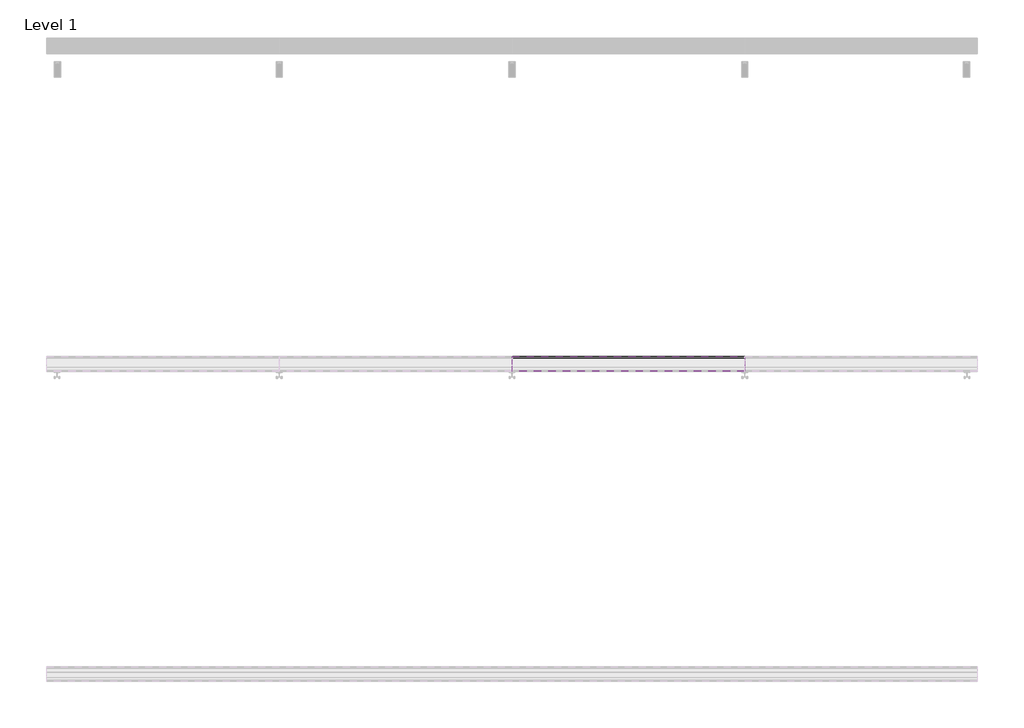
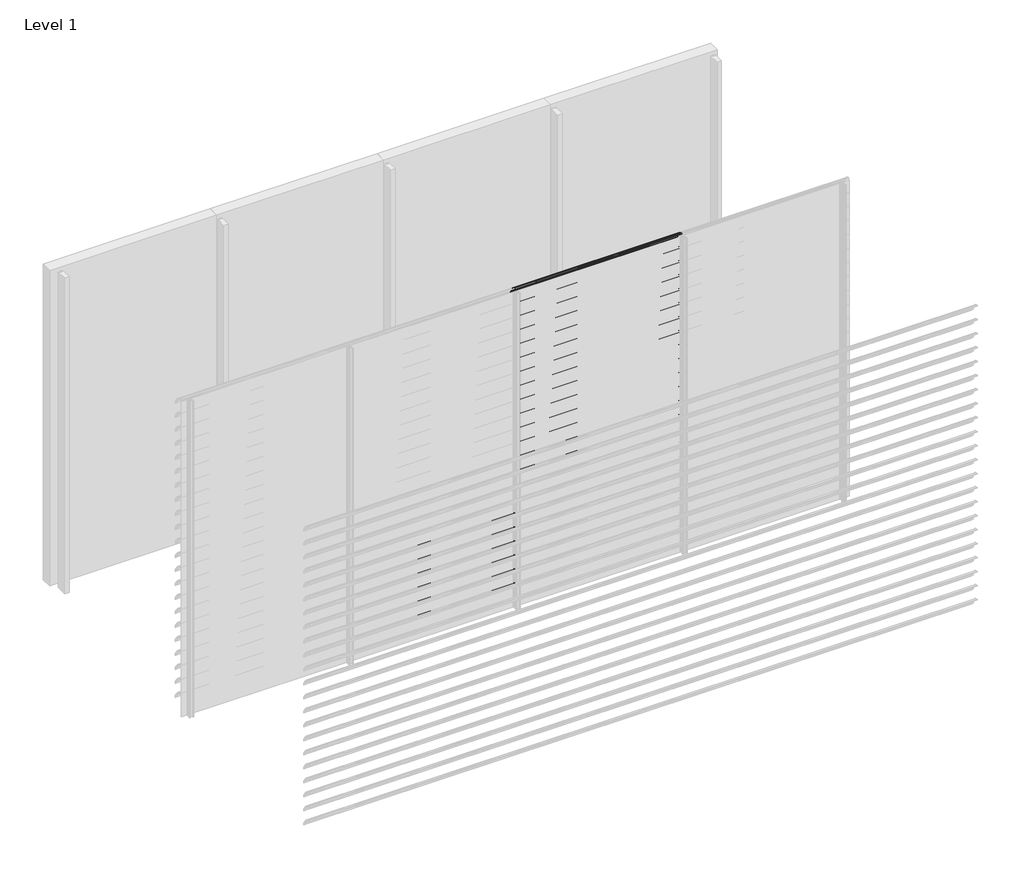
# One storey, part 17 of 57: 20 proxies.
"""IFC4 building model written with IfcOpenShell, lengths in millimetres."""

from ifc_helpers import new_model, si_unit, point, frame, frame_2d, origin, place, context, project, spatial, polyline, circle_curve, trimmed, segment, composite_curve, outline, extrude, element, save

model = new_model("IFC4")

# Units and contexts
model_context = context("Model", 3, world=origin())
ifc_project = project(units=[si_unit("LENGTHUNIT", "METRE", prefix="MILLI")], contexts=[model_context])

# Site, building, storey
site = spatial("IfcSite", under=ifc_project)
building = spatial("IfcBuilding", under=site)
storey = spatial("IfcBuildingStorey", under=building, Name="Level 1", Elevation=0.0)

# Proxies
placement = place(None, origin())
element("IfcBuildingElementProxy", 1, Name="Wall Sweeps", at=placement, inside=storey, context=model_context, shape_type="SweptSolid", body=[
    extrude(outline(composite_curve([segment(trimmed(circle_curve(frame_2d((-41993.7822526, 888.4913792)), 4.2177474), [point((-41989.6985606, 889.5462976))], [point((-41993.7822526, 892.7091266))], False, "CARTESIAN"), True, "CONTINUOUS"), segment(trimmed(circle_curve(frame_2d((-42018.7150834, 790.2536312)), 105.4456002), [point((-41993.7822526, 892.7091266))], [point((-41971.7914298, 884.6832099))], False, "CARTESIAN"), True, "CONTINUOUS"), segment(trimmed(circle_curve(frame_2d((-42061.7199745, 736.0352476)), 173.7335887), [point((-41971.7914298, 884.6832099))], [point((-41913.0720121, 825.9637922))], False, "CARTESIAN"), True, "CONTINUOUS"), segment(trimmed(circle_curve(frame_2d((-42004.9297178, 774.1860314)), 105.4456002), [point((-41913.0720121, 825.9637922))], [point((-41903.6249616, 803.4455765))], False, "CARTESIAN"), True, "CONTINUOUS"), segment(trimmed(circle_curve(frame_2d((-41907.809737, 802.3307305)), 4.3307305), [point((-41903.6249616, 803.4455765))], [point((-41909.0769196, 798.189538))], False, "CARTESIAN"), True, "CONTINUOUS"), segment(polyline([(-41909.0769196, 798.189538), (-41934.7401984, 822.9722783)]), True, "CONTINUOUS"), segment(trimmed(circle_curve(frame_2d((-41931.3879574, 825.2977626)), 4.079877), [point((-41934.7401984, 822.9722783))], [point((-41930.7310597, 829.3244091))], False, "CARTESIAN"), True, "CONTINUOUS"), segment(trimmed(circle_curve(frame_2d((-42014.6665585, 807.2544323)), 86.7885467), [point((-41930.7310597, 829.3244091))], [point((-41942.3028351, 855.1683485))], True, "CARTESIAN"), True, "CONTINUOUS"), segment(polyline([(-41942.3028351, 855.1683485), (-41940.7230099, 857.9046861)]), True, "CONTINUOUS"), segment(trimmed(circle_curve(frame_2d((-42061.7199745, 736.0352476)), 171.7335887), [point((-41940.7230099, 857.9046861))], [point((-41972.7555872, 882.9289618))], True, "CARTESIAN"), True, "CONTINUOUS"), segment(trimmed(circle_curve(frame_2d((-42018.7150834, 790.2536312)), 103.4456002), [point((-41972.7555872, 882.9289618))], [point((-41989.6985606, 889.5462976))], True, "CARTESIAN"), True, "CONTINUOUS")], self_intersect=False)), frame((1500.0, 0.0, 0.0), z_axis=(1.0, 0.0, 0.0), x_axis=(0.0, 1.0, 0.0)), (0.0, 0.0, 1.0), 1500.0),
])
element("IfcBuildingElementProxy", 2, Name="Wall Sweeps", at=placement, inside=storey, context=model_context, shape_type="SweptSolid", body=[
    extrude(outline(composite_curve([segment(trimmed(circle_curve(frame_2d((-41993.7822526, 755.4913792)), 4.2177474), [point((-41989.6985606, 756.5462976))], [point((-41993.7822526, 759.7091266))], False, "CARTESIAN"), True, "CONTINUOUS"), segment(trimmed(circle_curve(frame_2d((-42018.7150834, 657.2536312)), 105.4456002), [point((-41993.7822526, 759.7091266))], [point((-41971.7914298, 751.6832099))], False, "CARTESIAN"), True, "CONTINUOUS"), segment(trimmed(circle_curve(frame_2d((-42061.7199745, 603.0352476)), 173.7335887), [point((-41971.7914298, 751.6832099))], [point((-41913.0720121, 692.9637922))], False, "CARTESIAN"), True, "CONTINUOUS"), segment(trimmed(circle_curve(frame_2d((-42004.9297178, 641.1860314)), 105.4456002), [point((-41913.0720121, 692.9637922))], [point((-41903.6249616, 670.4455765))], False, "CARTESIAN"), True, "CONTINUOUS"), segment(trimmed(circle_curve(frame_2d((-41907.809737, 669.3307305)), 4.3307305), [point((-41903.6249616, 670.4455765))], [point((-41909.0769196, 665.189538))], False, "CARTESIAN"), True, "CONTINUOUS"), segment(polyline([(-41909.0769196, 665.189538), (-41934.7401984, 689.9722783)]), True, "CONTINUOUS"), segment(trimmed(circle_curve(frame_2d((-41931.3879574, 692.2977626)), 4.079877), [point((-41934.7401984, 689.9722783))], [point((-41930.7310597, 696.3244091))], False, "CARTESIAN"), True, "CONTINUOUS"), segment(trimmed(circle_curve(frame_2d((-42014.6665585, 674.2544323)), 86.7885467), [point((-41930.7310597, 696.3244091))], [point((-41942.3028351, 722.1683485))], True, "CARTESIAN"), True, "CONTINUOUS"), segment(polyline([(-41942.3028351, 722.1683485), (-41940.7230099, 724.9046861)]), True, "CONTINUOUS"), segment(trimmed(circle_curve(frame_2d((-42061.7199745, 603.0352476)), 171.7335887), [point((-41940.7230099, 724.9046861))], [point((-41972.7555872, 749.9289618))], True, "CARTESIAN"), True, "CONTINUOUS"), segment(trimmed(circle_curve(frame_2d((-42018.7150834, 657.2536312)), 103.4456002), [point((-41972.7555872, 749.9289618))], [point((-41989.6985606, 756.5462976))], True, "CARTESIAN"), True, "CONTINUOUS")], self_intersect=False)), frame((1500.0, 0.0, 0.0), z_axis=(1.0, 0.0, 0.0), x_axis=(0.0, 1.0, 0.0)), (0.0, 0.0, 1.0), 1500.0),
])
element("IfcBuildingElementProxy", 3, Name="Wall Sweeps", at=placement, inside=storey, context=model_context, shape_type="SweptSolid", body=[
    extrude(outline(composite_curve([segment(trimmed(circle_curve(frame_2d((-41993.7822526, 622.4913792)), 4.2177474), [point((-41989.6985606, 623.5462976))], [point((-41993.7822526, 626.7091266))], False, "CARTESIAN"), True, "CONTINUOUS"), segment(trimmed(circle_curve(frame_2d((-42018.7150834, 524.2536312)), 105.4456002), [point((-41993.7822526, 626.7091266))], [point((-41971.7914298, 618.6832099))], False, "CARTESIAN"), True, "CONTINUOUS"), segment(trimmed(circle_curve(frame_2d((-42061.7199745, 470.0352476)), 173.7335887), [point((-41971.7914298, 618.6832099))], [point((-41913.0720121, 559.9637922))], False, "CARTESIAN"), True, "CONTINUOUS"), segment(trimmed(circle_curve(frame_2d((-42004.9297178, 508.1860314)), 105.4456002), [point((-41913.0720121, 559.9637922))], [point((-41903.6249616, 537.4455765))], False, "CARTESIAN"), True, "CONTINUOUS"), segment(trimmed(circle_curve(frame_2d((-41907.809737, 536.3307305)), 4.3307305), [point((-41903.6249616, 537.4455765))], [point((-41909.0769196, 532.189538))], False, "CARTESIAN"), True, "CONTINUOUS"), segment(polyline([(-41909.0769196, 532.189538), (-41934.7401984, 556.9722783)]), True, "CONTINUOUS"), segment(trimmed(circle_curve(frame_2d((-41931.3879574, 559.2977626)), 4.079877), [point((-41934.7401984, 556.9722783))], [point((-41930.7310597, 563.3244091))], False, "CARTESIAN"), True, "CONTINUOUS"), segment(trimmed(circle_curve(frame_2d((-42014.6665585, 541.2544323)), 86.7885467), [point((-41930.7310597, 563.3244091))], [point((-41942.3028351, 589.1683485))], True, "CARTESIAN"), True, "CONTINUOUS"), segment(polyline([(-41942.3028351, 589.1683485), (-41940.7230099, 591.9046861)]), True, "CONTINUOUS"), segment(trimmed(circle_curve(frame_2d((-42061.7199745, 470.0352476)), 171.7335887), [point((-41940.7230099, 591.9046861))], [point((-41972.7555872, 616.9289618))], True, "CARTESIAN"), True, "CONTINUOUS"), segment(trimmed(circle_curve(frame_2d((-42018.7150834, 524.2536312)), 103.4456002), [point((-41972.7555872, 616.9289618))], [point((-41989.6985606, 623.5462976))], True, "CARTESIAN"), True, "CONTINUOUS")], self_intersect=False)), frame((1500.0, 0.0, 0.0), z_axis=(1.0, 0.0, 0.0), x_axis=(0.0, 1.0, 0.0)), (0.0, 0.0, 1.0), 1500.0),
])
element("IfcBuildingElementProxy", 4, Name="Wall Sweeps", at=placement, inside=storey, context=model_context, shape_type="SweptSolid", body=[
    extrude(outline(composite_curve([segment(trimmed(circle_curve(frame_2d((-41993.7822526, 489.4913792)), 4.2177474), [point((-41989.6985606, 490.5462976))], [point((-41993.7822526, 493.7091266))], False, "CARTESIAN"), True, "CONTINUOUS"), segment(trimmed(circle_curve(frame_2d((-42018.7150834, 391.2536312)), 105.4456002), [point((-41993.7822526, 493.7091266))], [point((-41971.7914298, 485.6832099))], False, "CARTESIAN"), True, "CONTINUOUS"), segment(trimmed(circle_curve(frame_2d((-42061.7199745, 337.0352476)), 173.7335887), [point((-41971.7914298, 485.6832099))], [point((-41913.0720121, 426.9637922))], False, "CARTESIAN"), True, "CONTINUOUS"), segment(trimmed(circle_curve(frame_2d((-42004.9297178, 375.1860314)), 105.4456002), [point((-41913.0720121, 426.9637922))], [point((-41903.6249616, 404.4455765))], False, "CARTESIAN"), True, "CONTINUOUS"), segment(trimmed(circle_curve(frame_2d((-41907.809737, 403.3307305)), 4.3307305), [point((-41903.6249616, 404.4455765))], [point((-41909.0769196, 399.189538))], False, "CARTESIAN"), True, "CONTINUOUS"), segment(polyline([(-41909.0769196, 399.189538), (-41934.7401984, 423.9722783)]), True, "CONTINUOUS"), segment(trimmed(circle_curve(frame_2d((-41931.3879574, 426.2977626)), 4.079877), [point((-41934.7401984, 423.9722783))], [point((-41930.7310597, 430.3244091))], False, "CARTESIAN"), True, "CONTINUOUS"), segment(trimmed(circle_curve(frame_2d((-42014.6665585, 408.2544323)), 86.7885467), [point((-41930.7310597, 430.3244091))], [point((-41942.3028351, 456.1683485))], True, "CARTESIAN"), True, "CONTINUOUS"), segment(polyline([(-41942.3028351, 456.1683485), (-41940.7230099, 458.9046861)]), True, "CONTINUOUS"), segment(trimmed(circle_curve(frame_2d((-42061.7199745, 337.0352476)), 171.7335887), [point((-41940.7230099, 458.9046861))], [point((-41972.7555872, 483.9289618))], True, "CARTESIAN"), True, "CONTINUOUS"), segment(trimmed(circle_curve(frame_2d((-42018.7150834, 391.2536312)), 103.4456002), [point((-41972.7555872, 483.9289618))], [point((-41989.6985606, 490.5462976))], True, "CARTESIAN"), True, "CONTINUOUS")], self_intersect=False)), frame((1500.0, 0.0, 0.0), z_axis=(1.0, 0.0, 0.0), x_axis=(0.0, 1.0, 0.0)), (0.0, 0.0, 1.0), 1500.0),
])
element("IfcBuildingElementProxy", 5, Name="Wall Sweeps", at=placement, inside=storey, context=model_context, shape_type="SweptSolid", body=[
    extrude(outline(composite_curve([segment(trimmed(circle_curve(frame_2d((-41993.7822526, 356.4913792)), 4.2177474), [point((-41989.6985606, 357.5462976))], [point((-41993.7822526, 360.7091266))], False, "CARTESIAN"), True, "CONTINUOUS"), segment(trimmed(circle_curve(frame_2d((-42018.7150834, 258.2536312)), 105.4456002), [point((-41993.7822526, 360.7091266))], [point((-41971.7914298, 352.6832099))], False, "CARTESIAN"), True, "CONTINUOUS"), segment(trimmed(circle_curve(frame_2d((-42061.7199745, 204.0352476)), 173.7335887), [point((-41971.7914298, 352.6832099))], [point((-41913.0720121, 293.9637922))], False, "CARTESIAN"), True, "CONTINUOUS"), segment(trimmed(circle_curve(frame_2d((-42004.9297178, 242.1860314)), 105.4456002), [point((-41913.0720121, 293.9637922))], [point((-41903.6249616, 271.4455765))], False, "CARTESIAN"), True, "CONTINUOUS"), segment(trimmed(circle_curve(frame_2d((-41907.809737, 270.3307305)), 4.3307305), [point((-41903.6249616, 271.4455765))], [point((-41909.0769196, 266.189538))], False, "CARTESIAN"), True, "CONTINUOUS"), segment(polyline([(-41909.0769196, 266.189538), (-41934.7401984, 290.9722783)]), True, "CONTINUOUS"), segment(trimmed(circle_curve(frame_2d((-41931.3879574, 293.2977626)), 4.079877), [point((-41934.7401984, 290.9722783))], [point((-41930.7310597, 297.3244091))], False, "CARTESIAN"), True, "CONTINUOUS"), segment(trimmed(circle_curve(frame_2d((-42014.6665585, 275.2544323)), 86.7885467), [point((-41930.7310597, 297.3244091))], [point((-41942.3028351, 323.1683485))], True, "CARTESIAN"), True, "CONTINUOUS"), segment(polyline([(-41942.3028351, 323.1683485), (-41940.7230099, 325.9046861)]), True, "CONTINUOUS"), segment(trimmed(circle_curve(frame_2d((-42061.7199745, 204.0352476)), 171.7335887), [point((-41940.7230099, 325.9046861))], [point((-41972.7555872, 350.9289618))], True, "CARTESIAN"), True, "CONTINUOUS"), segment(trimmed(circle_curve(frame_2d((-42018.7150834, 258.2536312)), 103.4456002), [point((-41972.7555872, 350.9289618))], [point((-41989.6985606, 357.5462976))], True, "CARTESIAN"), True, "CONTINUOUS")], self_intersect=False)), frame((1500.0, 0.0, 0.0), z_axis=(1.0, 0.0, 0.0), x_axis=(0.0, 1.0, 0.0)), (0.0, 0.0, 1.0), 1500.0),
])
element("IfcBuildingElementProxy", 6, Name="Wall Sweeps", at=placement, inside=storey, context=model_context, shape_type="SweptSolid", body=[
    extrude(outline(composite_curve([segment(trimmed(circle_curve(frame_2d((-41993.7822526, 223.4913792)), 4.2177474), [point((-41989.6985606, 224.5462976))], [point((-41993.7822526, 227.7091266))], False, "CARTESIAN"), True, "CONTINUOUS"), segment(trimmed(circle_curve(frame_2d((-42018.7150834, 125.2536312)), 105.4456002), [point((-41993.7822526, 227.7091266))], [point((-41971.7914298, 219.6832099))], False, "CARTESIAN"), True, "CONTINUOUS"), segment(trimmed(circle_curve(frame_2d((-42061.7199745, 71.0352476)), 173.7335887), [point((-41971.7914298, 219.6832099))], [point((-41913.0720121, 160.9637922))], False, "CARTESIAN"), True, "CONTINUOUS"), segment(trimmed(circle_curve(frame_2d((-42004.9297178, 109.1860314)), 105.4456002), [point((-41913.0720121, 160.9637922))], [point((-41903.6249616, 138.4455765))], False, "CARTESIAN"), True, "CONTINUOUS"), segment(trimmed(circle_curve(frame_2d((-41907.809737, 137.3307305)), 4.3307305), [point((-41903.6249616, 138.4455765))], [point((-41909.0769196, 133.189538))], False, "CARTESIAN"), True, "CONTINUOUS"), segment(polyline([(-41909.0769196, 133.189538), (-41934.7401984, 157.9722783)]), True, "CONTINUOUS"), segment(trimmed(circle_curve(frame_2d((-41931.3879574, 160.2977626)), 4.079877), [point((-41934.7401984, 157.9722783))], [point((-41930.7310597, 164.3244091))], False, "CARTESIAN"), True, "CONTINUOUS"), segment(trimmed(circle_curve(frame_2d((-42014.6665585, 142.2544323)), 86.7885467), [point((-41930.7310597, 164.3244091))], [point((-41942.3028351, 190.1683485))], True, "CARTESIAN"), True, "CONTINUOUS"), segment(polyline([(-41942.3028351, 190.1683485), (-41940.7230099, 192.9046861)]), True, "CONTINUOUS"), segment(trimmed(circle_curve(frame_2d((-42061.7199745, 71.0352476)), 171.7335887), [point((-41940.7230099, 192.9046861))], [point((-41972.7555872, 217.9289618))], True, "CARTESIAN"), True, "CONTINUOUS"), segment(trimmed(circle_curve(frame_2d((-42018.7150834, 125.2536312)), 103.4456002), [point((-41972.7555872, 217.9289618))], [point((-41989.6985606, 224.5462976))], True, "CARTESIAN"), True, "CONTINUOUS")], self_intersect=False)), frame((1500.0, 0.0, 0.0), z_axis=(1.0, 0.0, 0.0), x_axis=(0.0, 1.0, 0.0)), (0.0, 0.0, 1.0), 1500.0),
])
element("IfcBuildingElementProxy", 7, Name="Wall Sweeps", at=placement, inside=storey, context=model_context, shape_type="SweptSolid", body=[
    extrude(outline(composite_curve([segment(trimmed(circle_curve(frame_2d((-41993.7822526, 3016.4913792)), 4.2177474), [point((-41989.6985606, 3017.5462976))], [point((-41993.7822526, 3020.7091266))], False, "CARTESIAN"), True, "CONTINUOUS"), segment(trimmed(circle_curve(frame_2d((-42018.7150834, 2918.2536312)), 105.4456002), [point((-41993.7822526, 3020.7091266))], [point((-41971.7914298, 3012.6832099))], False, "CARTESIAN"), True, "CONTINUOUS"), segment(trimmed(circle_curve(frame_2d((-42061.7199745, 2864.0352476)), 173.7335887), [point((-41971.7914298, 3012.6832099))], [point((-41913.0720121, 2953.9637922))], False, "CARTESIAN"), True, "CONTINUOUS"), segment(trimmed(circle_curve(frame_2d((-42004.9297178, 2902.1860314)), 105.4456002), [point((-41913.0720121, 2953.9637922))], [point((-41903.6249616, 2931.4455765))], False, "CARTESIAN"), True, "CONTINUOUS"), segment(trimmed(circle_curve(frame_2d((-41907.809737, 2930.3307305)), 4.3307305), [point((-41903.6249616, 2931.4455765))], [point((-41909.0769196, 2926.189538))], False, "CARTESIAN"), True, "CONTINUOUS"), segment(polyline([(-41909.0769196, 2926.189538), (-41934.7401984, 2950.9722783)]), True, "CONTINUOUS"), segment(trimmed(circle_curve(frame_2d((-41931.3879574, 2953.2977626)), 4.079877), [point((-41934.7401984, 2950.9722783))], [point((-41930.7310597, 2957.3244091))], False, "CARTESIAN"), True, "CONTINUOUS"), segment(trimmed(circle_curve(frame_2d((-42014.6665585, 2935.2544323)), 86.7885467), [point((-41930.7310597, 2957.3244091))], [point((-41942.3028351, 2983.1683485))], True, "CARTESIAN"), True, "CONTINUOUS"), segment(polyline([(-41942.3028351, 2983.1683485), (-41940.7230099, 2985.9046861)]), True, "CONTINUOUS"), segment(trimmed(circle_curve(frame_2d((-42061.7199745, 2864.0352476)), 171.7335887), [point((-41940.7230099, 2985.9046861))], [point((-41972.7555872, 3010.9289618))], True, "CARTESIAN"), True, "CONTINUOUS"), segment(trimmed(circle_curve(frame_2d((-42018.7150834, 2918.2536312)), 103.4456002), [point((-41972.7555872, 3010.9289618))], [point((-41989.6985606, 3017.5462976))], True, "CARTESIAN"), True, "CONTINUOUS")], self_intersect=False)), frame((3000.0, 0.0, 0.0), z_axis=(1.0, 0.0, 0.0), x_axis=(0.0, 1.0, 0.0)), (0.0, 0.0, 1.0), 1500.0),
])
element("IfcBuildingElementProxy", 8, Name="Wall Sweeps", at=placement, inside=storey, context=model_context, shape_type="SweptSolid", body=[
    extrude(outline(composite_curve([segment(trimmed(circle_curve(frame_2d((-41993.7822526, 2883.4913792)), 4.2177474), [point((-41989.6985606, 2884.5462976))], [point((-41993.7822526, 2887.7091266))], False, "CARTESIAN"), True, "CONTINUOUS"), segment(trimmed(circle_curve(frame_2d((-42018.7150834, 2785.2536312)), 105.4456002), [point((-41993.7822526, 2887.7091266))], [point((-41971.7914298, 2879.6832099))], False, "CARTESIAN"), True, "CONTINUOUS"), segment(trimmed(circle_curve(frame_2d((-42061.7199745, 2731.0352476)), 173.7335887), [point((-41971.7914298, 2879.6832099))], [point((-41913.0720121, 2820.9637922))], False, "CARTESIAN"), True, "CONTINUOUS"), segment(trimmed(circle_curve(frame_2d((-42004.9297178, 2769.1860314)), 105.4456002), [point((-41913.0720121, 2820.9637922))], [point((-41903.6249616, 2798.4455765))], False, "CARTESIAN"), True, "CONTINUOUS"), segment(trimmed(circle_curve(frame_2d((-41907.809737, 2797.3307305)), 4.3307305), [point((-41903.6249616, 2798.4455765))], [point((-41909.0769196, 2793.189538))], False, "CARTESIAN"), True, "CONTINUOUS"), segment(polyline([(-41909.0769196, 2793.189538), (-41934.7401984, 2817.9722783)]), True, "CONTINUOUS"), segment(trimmed(circle_curve(frame_2d((-41931.3879574, 2820.2977626)), 4.079877), [point((-41934.7401984, 2817.9722783))], [point((-41930.7310597, 2824.3244091))], False, "CARTESIAN"), True, "CONTINUOUS"), segment(trimmed(circle_curve(frame_2d((-42014.6665585, 2802.2544323)), 86.7885467), [point((-41930.7310597, 2824.3244091))], [point((-41942.3028351, 2850.1683485))], True, "CARTESIAN"), True, "CONTINUOUS"), segment(polyline([(-41942.3028351, 2850.1683485), (-41940.7230099, 2852.9046861)]), True, "CONTINUOUS"), segment(trimmed(circle_curve(frame_2d((-42061.7199745, 2731.0352476)), 171.7335887), [point((-41940.7230099, 2852.9046861))], [point((-41972.7555872, 2877.9289618))], True, "CARTESIAN"), True, "CONTINUOUS"), segment(trimmed(circle_curve(frame_2d((-42018.7150834, 2785.2536312)), 103.4456002), [point((-41972.7555872, 2877.9289618))], [point((-41989.6985606, 2884.5462976))], True, "CARTESIAN"), True, "CONTINUOUS")], self_intersect=False)), frame((3000.0, 0.0, 0.0), z_axis=(1.0, 0.0, 0.0), x_axis=(0.0, 1.0, 0.0)), (0.0, 0.0, 1.0), 1500.0),
])
element("IfcBuildingElementProxy", 9, Name="Wall Sweeps", at=placement, inside=storey, context=model_context, shape_type="SweptSolid", body=[
    extrude(outline(composite_curve([segment(trimmed(circle_curve(frame_2d((-41993.7822526, 2750.4913792)), 4.2177474), [point((-41989.6985606, 2751.5462976))], [point((-41993.7822526, 2754.7091266))], False, "CARTESIAN"), True, "CONTINUOUS"), segment(trimmed(circle_curve(frame_2d((-42018.7150834, 2652.2536312)), 105.4456002), [point((-41993.7822526, 2754.7091266))], [point((-41971.7914298, 2746.6832099))], False, "CARTESIAN"), True, "CONTINUOUS"), segment(trimmed(circle_curve(frame_2d((-42061.7199745, 2598.0352476)), 173.7335887), [point((-41971.7914298, 2746.6832099))], [point((-41913.0720121, 2687.9637922))], False, "CARTESIAN"), True, "CONTINUOUS"), segment(trimmed(circle_curve(frame_2d((-42004.9297178, 2636.1860314)), 105.4456002), [point((-41913.0720121, 2687.9637922))], [point((-41903.6249616, 2665.4455765))], False, "CARTESIAN"), True, "CONTINUOUS"), segment(trimmed(circle_curve(frame_2d((-41907.809737, 2664.3307305)), 4.3307305), [point((-41903.6249616, 2665.4455765))], [point((-41909.0769196, 2660.189538))], False, "CARTESIAN"), True, "CONTINUOUS"), segment(polyline([(-41909.0769196, 2660.189538), (-41934.7401984, 2684.9722783)]), True, "CONTINUOUS"), segment(trimmed(circle_curve(frame_2d((-41931.3879574, 2687.2977626)), 4.079877), [point((-41934.7401984, 2684.9722783))], [point((-41930.7310597, 2691.3244091))], False, "CARTESIAN"), True, "CONTINUOUS"), segment(trimmed(circle_curve(frame_2d((-42014.6665585, 2669.2544323)), 86.7885467), [point((-41930.7310597, 2691.3244091))], [point((-41942.3028351, 2717.1683485))], True, "CARTESIAN"), True, "CONTINUOUS"), segment(polyline([(-41942.3028351, 2717.1683485), (-41940.7230099, 2719.9046861)]), True, "CONTINUOUS"), segment(trimmed(circle_curve(frame_2d((-42061.7199745, 2598.0352476)), 171.7335887), [point((-41940.7230099, 2719.9046861))], [point((-41972.7555872, 2744.9289618))], True, "CARTESIAN"), True, "CONTINUOUS"), segment(trimmed(circle_curve(frame_2d((-42018.7150834, 2652.2536312)), 103.4456002), [point((-41972.7555872, 2744.9289618))], [point((-41989.6985606, 2751.5462976))], True, "CARTESIAN"), True, "CONTINUOUS")], self_intersect=False)), frame((3000.0, 0.0, 0.0), z_axis=(1.0, 0.0, 0.0), x_axis=(0.0, 1.0, 0.0)), (0.0, 0.0, 1.0), 1500.0),
])
element("IfcBuildingElementProxy", 10, Name="Wall Sweeps", at=placement, inside=storey, context=model_context, shape_type="SweptSolid", body=[
    extrude(outline(composite_curve([segment(trimmed(circle_curve(frame_2d((-41993.7822526, 2617.4913792)), 4.2177474), [point((-41989.6985606, 2618.5462976))], [point((-41993.7822526, 2621.7091266))], False, "CARTESIAN"), True, "CONTINUOUS"), segment(trimmed(circle_curve(frame_2d((-42018.7150834, 2519.2536312)), 105.4456002), [point((-41993.7822526, 2621.7091266))], [point((-41971.7914298, 2613.6832099))], False, "CARTESIAN"), True, "CONTINUOUS"), segment(trimmed(circle_curve(frame_2d((-42061.7199745, 2465.0352476)), 173.7335887), [point((-41971.7914298, 2613.6832099))], [point((-41913.0720121, 2554.9637922))], False, "CARTESIAN"), True, "CONTINUOUS"), segment(trimmed(circle_curve(frame_2d((-42004.9297178, 2503.1860314)), 105.4456002), [point((-41913.0720121, 2554.9637922))], [point((-41903.6249616, 2532.4455765))], False, "CARTESIAN"), True, "CONTINUOUS"), segment(trimmed(circle_curve(frame_2d((-41907.809737, 2531.3307305)), 4.3307305), [point((-41903.6249616, 2532.4455765))], [point((-41909.0769196, 2527.189538))], False, "CARTESIAN"), True, "CONTINUOUS"), segment(polyline([(-41909.0769196, 2527.189538), (-41934.7401984, 2551.9722783)]), True, "CONTINUOUS"), segment(trimmed(circle_curve(frame_2d((-41931.3879574, 2554.2977626)), 4.079877), [point((-41934.7401984, 2551.9722783))], [point((-41930.7310597, 2558.3244091))], False, "CARTESIAN"), True, "CONTINUOUS"), segment(trimmed(circle_curve(frame_2d((-42014.6665585, 2536.2544323)), 86.7885467), [point((-41930.7310597, 2558.3244091))], [point((-41942.3028351, 2584.1683485))], True, "CARTESIAN"), True, "CONTINUOUS"), segment(polyline([(-41942.3028351, 2584.1683485), (-41940.7230099, 2586.9046861)]), True, "CONTINUOUS"), segment(trimmed(circle_curve(frame_2d((-42061.7199745, 2465.0352476)), 171.7335887), [point((-41940.7230099, 2586.9046861))], [point((-41972.7555872, 2611.9289618))], True, "CARTESIAN"), True, "CONTINUOUS"), segment(trimmed(circle_curve(frame_2d((-42018.7150834, 2519.2536312)), 103.4456002), [point((-41972.7555872, 2611.9289618))], [point((-41989.6985606, 2618.5462976))], True, "CARTESIAN"), True, "CONTINUOUS")], self_intersect=False)), frame((3000.0, 0.0, 0.0), z_axis=(1.0, 0.0, 0.0), x_axis=(0.0, 1.0, 0.0)), (0.0, 0.0, 1.0), 1500.0),
])
element("IfcBuildingElementProxy", 11, Name="Wall Sweeps", at=placement, inside=storey, context=model_context, shape_type="SweptSolid", body=[
    extrude(outline(composite_curve([segment(trimmed(circle_curve(frame_2d((-41993.7822526, 2484.4913792)), 4.2177474), [point((-41989.6985606, 2485.5462976))], [point((-41993.7822526, 2488.7091266))], False, "CARTESIAN"), True, "CONTINUOUS"), segment(trimmed(circle_curve(frame_2d((-42018.7150834, 2386.2536312)), 105.4456002), [point((-41993.7822526, 2488.7091266))], [point((-41971.7914298, 2480.6832099))], False, "CARTESIAN"), True, "CONTINUOUS"), segment(trimmed(circle_curve(frame_2d((-42061.7199745, 2332.0352476)), 173.7335887), [point((-41971.7914298, 2480.6832099))], [point((-41913.0720121, 2421.9637922))], False, "CARTESIAN"), True, "CONTINUOUS"), segment(trimmed(circle_curve(frame_2d((-42004.9297178, 2370.1860314)), 105.4456002), [point((-41913.0720121, 2421.9637922))], [point((-41903.6249616, 2399.4455765))], False, "CARTESIAN"), True, "CONTINUOUS"), segment(trimmed(circle_curve(frame_2d((-41907.809737, 2398.3307305)), 4.3307305), [point((-41903.6249616, 2399.4455765))], [point((-41909.0769196, 2394.189538))], False, "CARTESIAN"), True, "CONTINUOUS"), segment(polyline([(-41909.0769196, 2394.189538), (-41934.7401984, 2418.9722783)]), True, "CONTINUOUS"), segment(trimmed(circle_curve(frame_2d((-41931.3879574, 2421.2977626)), 4.079877), [point((-41934.7401984, 2418.9722783))], [point((-41930.7310597, 2425.3244091))], False, "CARTESIAN"), True, "CONTINUOUS"), segment(trimmed(circle_curve(frame_2d((-42014.6665585, 2403.2544323)), 86.7885467), [point((-41930.7310597, 2425.3244091))], [point((-41942.3028351, 2451.1683485))], True, "CARTESIAN"), True, "CONTINUOUS"), segment(polyline([(-41942.3028351, 2451.1683485), (-41940.7230099, 2453.9046861)]), True, "CONTINUOUS"), segment(trimmed(circle_curve(frame_2d((-42061.7199745, 2332.0352476)), 171.7335887), [point((-41940.7230099, 2453.9046861))], [point((-41972.7555872, 2478.9289618))], True, "CARTESIAN"), True, "CONTINUOUS"), segment(trimmed(circle_curve(frame_2d((-42018.7150834, 2386.2536312)), 103.4456002), [point((-41972.7555872, 2478.9289618))], [point((-41989.6985606, 2485.5462976))], True, "CARTESIAN"), True, "CONTINUOUS")], self_intersect=False)), frame((3000.0, 0.0, 0.0), z_axis=(1.0, 0.0, 0.0), x_axis=(0.0, 1.0, 0.0)), (0.0, 0.0, 1.0), 1500.0),
])
element("IfcBuildingElementProxy", 12, Name="Wall Sweeps", at=placement, inside=storey, context=model_context, shape_type="SweptSolid", body=[
    extrude(outline(composite_curve([segment(trimmed(circle_curve(frame_2d((-41993.7822526, 2351.4913792)), 4.2177474), [point((-41989.6985606, 2352.5462976))], [point((-41993.7822526, 2355.7091266))], False, "CARTESIAN"), True, "CONTINUOUS"), segment(trimmed(circle_curve(frame_2d((-42018.7150834, 2253.2536312)), 105.4456002), [point((-41993.7822526, 2355.7091266))], [point((-41971.7914298, 2347.6832099))], False, "CARTESIAN"), True, "CONTINUOUS"), segment(trimmed(circle_curve(frame_2d((-42061.7199745, 2199.0352476)), 173.7335887), [point((-41971.7914298, 2347.6832099))], [point((-41913.0720121, 2288.9637922))], False, "CARTESIAN"), True, "CONTINUOUS"), segment(trimmed(circle_curve(frame_2d((-42004.9297178, 2237.1860314)), 105.4456002), [point((-41913.0720121, 2288.9637922))], [point((-41903.6249616, 2266.4455765))], False, "CARTESIAN"), True, "CONTINUOUS"), segment(trimmed(circle_curve(frame_2d((-41907.809737, 2265.3307305)), 4.3307305), [point((-41903.6249616, 2266.4455765))], [point((-41909.0769196, 2261.189538))], False, "CARTESIAN"), True, "CONTINUOUS"), segment(polyline([(-41909.0769196, 2261.189538), (-41934.7401984, 2285.9722783)]), True, "CONTINUOUS"), segment(trimmed(circle_curve(frame_2d((-41931.3879574, 2288.2977626)), 4.079877), [point((-41934.7401984, 2285.9722783))], [point((-41930.7310597, 2292.3244091))], False, "CARTESIAN"), True, "CONTINUOUS"), segment(trimmed(circle_curve(frame_2d((-42014.6665585, 2270.2544323)), 86.7885467), [point((-41930.7310597, 2292.3244091))], [point((-41942.3028351, 2318.1683485))], True, "CARTESIAN"), True, "CONTINUOUS"), segment(polyline([(-41942.3028351, 2318.1683485), (-41940.7230099, 2320.9046861)]), True, "CONTINUOUS"), segment(trimmed(circle_curve(frame_2d((-42061.7199745, 2199.0352476)), 171.7335887), [point((-41940.7230099, 2320.9046861))], [point((-41972.7555872, 2345.9289618))], True, "CARTESIAN"), True, "CONTINUOUS"), segment(trimmed(circle_curve(frame_2d((-42018.7150834, 2253.2536312)), 103.4456002), [point((-41972.7555872, 2345.9289618))], [point((-41989.6985606, 2352.5462976))], True, "CARTESIAN"), True, "CONTINUOUS")], self_intersect=False)), frame((3000.0, 0.0, 0.0), z_axis=(1.0, 0.0, 0.0), x_axis=(0.0, 1.0, 0.0)), (0.0, 0.0, 1.0), 1500.0),
])
element("IfcBuildingElementProxy", 13, Name="Wall Sweeps", at=placement, inside=storey, context=model_context, shape_type="SweptSolid", body=[
    extrude(outline(composite_curve([segment(trimmed(circle_curve(frame_2d((-41993.7822526, 2218.4913792)), 4.2177474), [point((-41989.6985606, 2219.5462976))], [point((-41993.7822526, 2222.7091266))], False, "CARTESIAN"), True, "CONTINUOUS"), segment(trimmed(circle_curve(frame_2d((-42018.7150834, 2120.2536312)), 105.4456002), [point((-41993.7822526, 2222.7091266))], [point((-41971.7914298, 2214.6832099))], False, "CARTESIAN"), True, "CONTINUOUS"), segment(trimmed(circle_curve(frame_2d((-42061.7199745, 2066.0352476)), 173.7335887), [point((-41971.7914298, 2214.6832099))], [point((-41913.0720121, 2155.9637922))], False, "CARTESIAN"), True, "CONTINUOUS"), segment(trimmed(circle_curve(frame_2d((-42004.9297178, 2104.1860314)), 105.4456002), [point((-41913.0720121, 2155.9637922))], [point((-41903.6249616, 2133.4455765))], False, "CARTESIAN"), True, "CONTINUOUS"), segment(trimmed(circle_curve(frame_2d((-41907.809737, 2132.3307305)), 4.3307305), [point((-41903.6249616, 2133.4455765))], [point((-41909.0769196, 2128.189538))], False, "CARTESIAN"), True, "CONTINUOUS"), segment(polyline([(-41909.0769196, 2128.189538), (-41934.7401984, 2152.9722783)]), True, "CONTINUOUS"), segment(trimmed(circle_curve(frame_2d((-41931.3879574, 2155.2977626)), 4.079877), [point((-41934.7401984, 2152.9722783))], [point((-41930.7310597, 2159.3244091))], False, "CARTESIAN"), True, "CONTINUOUS"), segment(trimmed(circle_curve(frame_2d((-42014.6665585, 2137.2544323)), 86.7885467), [point((-41930.7310597, 2159.3244091))], [point((-41942.3028351, 2185.1683485))], True, "CARTESIAN"), True, "CONTINUOUS"), segment(polyline([(-41942.3028351, 2185.1683485), (-41940.7230099, 2187.9046861)]), True, "CONTINUOUS"), segment(trimmed(circle_curve(frame_2d((-42061.7199745, 2066.0352476)), 171.7335887), [point((-41940.7230099, 2187.9046861))], [point((-41972.7555872, 2212.9289618))], True, "CARTESIAN"), True, "CONTINUOUS"), segment(trimmed(circle_curve(frame_2d((-42018.7150834, 2120.2536312)), 103.4456002), [point((-41972.7555872, 2212.9289618))], [point((-41989.6985606, 2219.5462976))], True, "CARTESIAN"), True, "CONTINUOUS")], self_intersect=False)), frame((3000.0, 0.0, 0.0), z_axis=(1.0, 0.0, 0.0), x_axis=(0.0, 1.0, 0.0)), (0.0, 0.0, 1.0), 1500.0),
])
element("IfcBuildingElementProxy", 14, Name="Wall Sweeps", at=placement, inside=storey, context=model_context, shape_type="SweptSolid", body=[
    extrude(outline(composite_curve([segment(trimmed(circle_curve(frame_2d((-41993.7822526, 2085.4913792)), 4.2177474), [point((-41989.6985606, 2086.5462976))], [point((-41993.7822526, 2089.7091266))], False, "CARTESIAN"), True, "CONTINUOUS"), segment(trimmed(circle_curve(frame_2d((-42018.7150834, 1987.2536312)), 105.4456002), [point((-41993.7822526, 2089.7091266))], [point((-41971.7914298, 2081.6832099))], False, "CARTESIAN"), True, "CONTINUOUS"), segment(trimmed(circle_curve(frame_2d((-42061.7199745, 1933.0352476)), 173.7335887), [point((-41971.7914298, 2081.6832099))], [point((-41913.0720121, 2022.9637922))], False, "CARTESIAN"), True, "CONTINUOUS"), segment(trimmed(circle_curve(frame_2d((-42004.9297178, 1971.1860314)), 105.4456002), [point((-41913.0720121, 2022.9637922))], [point((-41903.6249616, 2000.4455765))], False, "CARTESIAN"), True, "CONTINUOUS"), segment(trimmed(circle_curve(frame_2d((-41907.809737, 1999.3307305)), 4.3307305), [point((-41903.6249616, 2000.4455765))], [point((-41909.0769196, 1995.189538))], False, "CARTESIAN"), True, "CONTINUOUS"), segment(polyline([(-41909.0769196, 1995.189538), (-41934.7401984, 2019.9722783)]), True, "CONTINUOUS"), segment(trimmed(circle_curve(frame_2d((-41931.3879574, 2022.2977626)), 4.079877), [point((-41934.7401984, 2019.9722783))], [point((-41930.7310597, 2026.3244091))], False, "CARTESIAN"), True, "CONTINUOUS"), segment(trimmed(circle_curve(frame_2d((-42014.6665585, 2004.2544323)), 86.7885467), [point((-41930.7310597, 2026.3244091))], [point((-41942.3028351, 2052.1683485))], True, "CARTESIAN"), True, "CONTINUOUS"), segment(polyline([(-41942.3028351, 2052.1683485), (-41940.7230099, 2054.9046861)]), True, "CONTINUOUS"), segment(trimmed(circle_curve(frame_2d((-42061.7199745, 1933.0352476)), 171.7335887), [point((-41940.7230099, 2054.9046861))], [point((-41972.7555872, 2079.9289618))], True, "CARTESIAN"), True, "CONTINUOUS"), segment(trimmed(circle_curve(frame_2d((-42018.7150834, 1987.2536312)), 103.4456002), [point((-41972.7555872, 2079.9289618))], [point((-41989.6985606, 2086.5462976))], True, "CARTESIAN"), True, "CONTINUOUS")], self_intersect=False)), frame((3000.0, 0.0, 0.0), z_axis=(1.0, 0.0, 0.0), x_axis=(0.0, 1.0, 0.0)), (0.0, 0.0, 1.0), 1500.0),
])
element("IfcBuildingElementProxy", 15, Name="Wall Sweeps", at=placement, inside=storey, context=model_context, shape_type="SweptSolid", body=[
    extrude(outline(composite_curve([segment(trimmed(circle_curve(frame_2d((-41993.7822526, 1952.4913792)), 4.2177474), [point((-41989.6985606, 1953.5462976))], [point((-41993.7822526, 1956.7091266))], False, "CARTESIAN"), True, "CONTINUOUS"), segment(trimmed(circle_curve(frame_2d((-42018.7150834, 1854.2536312)), 105.4456002), [point((-41993.7822526, 1956.7091266))], [point((-41971.7914298, 1948.6832099))], False, "CARTESIAN"), True, "CONTINUOUS"), segment(trimmed(circle_curve(frame_2d((-42061.7199745, 1800.0352476)), 173.7335887), [point((-41971.7914298, 1948.6832099))], [point((-41913.0720121, 1889.9637922))], False, "CARTESIAN"), True, "CONTINUOUS"), segment(trimmed(circle_curve(frame_2d((-42004.9297178, 1838.1860314)), 105.4456002), [point((-41913.0720121, 1889.9637922))], [point((-41903.6249616, 1867.4455765))], False, "CARTESIAN"), True, "CONTINUOUS"), segment(trimmed(circle_curve(frame_2d((-41907.809737, 1866.3307305)), 4.3307305), [point((-41903.6249616, 1867.4455765))], [point((-41909.0769196, 1862.189538))], False, "CARTESIAN"), True, "CONTINUOUS"), segment(polyline([(-41909.0769196, 1862.189538), (-41934.7401984, 1886.9722783)]), True, "CONTINUOUS"), segment(trimmed(circle_curve(frame_2d((-41931.3879574, 1889.2977626)), 4.079877), [point((-41934.7401984, 1886.9722783))], [point((-41930.7310597, 1893.3244091))], False, "CARTESIAN"), True, "CONTINUOUS"), segment(trimmed(circle_curve(frame_2d((-42014.6665585, 1871.2544323)), 86.7885467), [point((-41930.7310597, 1893.3244091))], [point((-41942.3028351, 1919.1683485))], True, "CARTESIAN"), True, "CONTINUOUS"), segment(polyline([(-41942.3028351, 1919.1683485), (-41940.7230099, 1921.9046861)]), True, "CONTINUOUS"), segment(trimmed(circle_curve(frame_2d((-42061.7199745, 1800.0352476)), 171.7335887), [point((-41940.7230099, 1921.9046861))], [point((-41972.7555872, 1946.9289618))], True, "CARTESIAN"), True, "CONTINUOUS"), segment(trimmed(circle_curve(frame_2d((-42018.7150834, 1854.2536312)), 103.4456002), [point((-41972.7555872, 1946.9289618))], [point((-41989.6985606, 1953.5462976))], True, "CARTESIAN"), True, "CONTINUOUS")], self_intersect=False)), frame((3000.0, 0.0, 0.0), z_axis=(1.0, 0.0, 0.0), x_axis=(0.0, 1.0, 0.0)), (0.0, 0.0, 1.0), 1500.0),
])
element("IfcBuildingElementProxy", 16, Name="Wall Sweeps", at=placement, inside=storey, context=model_context, shape_type="SweptSolid", body=[
    extrude(outline(composite_curve([segment(trimmed(circle_curve(frame_2d((-41993.7822526, 1819.4913792)), 4.2177474), [point((-41989.6985606, 1820.5462976))], [point((-41993.7822526, 1823.7091266))], False, "CARTESIAN"), True, "CONTINUOUS"), segment(trimmed(circle_curve(frame_2d((-42018.7150834, 1721.2536312)), 105.4456002), [point((-41993.7822526, 1823.7091266))], [point((-41971.7914298, 1815.6832099))], False, "CARTESIAN"), True, "CONTINUOUS"), segment(trimmed(circle_curve(frame_2d((-42061.7199745, 1667.0352476)), 173.7335887), [point((-41971.7914298, 1815.6832099))], [point((-41913.0720121, 1756.9637922))], False, "CARTESIAN"), True, "CONTINUOUS"), segment(trimmed(circle_curve(frame_2d((-42004.9297178, 1705.1860314)), 105.4456002), [point((-41913.0720121, 1756.9637922))], [point((-41903.6249616, 1734.4455765))], False, "CARTESIAN"), True, "CONTINUOUS"), segment(trimmed(circle_curve(frame_2d((-41907.809737, 1733.3307305)), 4.3307305), [point((-41903.6249616, 1734.4455765))], [point((-41909.0769196, 1729.189538))], False, "CARTESIAN"), True, "CONTINUOUS"), segment(polyline([(-41909.0769196, 1729.189538), (-41934.7401984, 1753.9722783)]), True, "CONTINUOUS"), segment(trimmed(circle_curve(frame_2d((-41931.3879574, 1756.2977626)), 4.079877), [point((-41934.7401984, 1753.9722783))], [point((-41930.7310597, 1760.3244091))], False, "CARTESIAN"), True, "CONTINUOUS"), segment(trimmed(circle_curve(frame_2d((-42014.6665585, 1738.2544323)), 86.7885467), [point((-41930.7310597, 1760.3244091))], [point((-41942.3028351, 1786.1683485))], True, "CARTESIAN"), True, "CONTINUOUS"), segment(polyline([(-41942.3028351, 1786.1683485), (-41940.7230099, 1788.9046861)]), True, "CONTINUOUS"), segment(trimmed(circle_curve(frame_2d((-42061.7199745, 1667.0352476)), 171.7335887), [point((-41940.7230099, 1788.9046861))], [point((-41972.7555872, 1813.9289618))], True, "CARTESIAN"), True, "CONTINUOUS"), segment(trimmed(circle_curve(frame_2d((-42018.7150834, 1721.2536312)), 103.4456002), [point((-41972.7555872, 1813.9289618))], [point((-41989.6985606, 1820.5462976))], True, "CARTESIAN"), True, "CONTINUOUS")], self_intersect=False)), frame((3000.0, 0.0, 0.0), z_axis=(1.0, 0.0, 0.0), x_axis=(0.0, 1.0, 0.0)), (0.0, 0.0, 1.0), 1500.0),
])
element("IfcBuildingElementProxy", 17, Name="Wall Sweeps", at=placement, inside=storey, context=model_context, shape_type="SweptSolid", body=[
    extrude(outline(composite_curve([segment(trimmed(circle_curve(frame_2d((-41993.7822526, 1686.4913792)), 4.2177474), [point((-41989.6985606, 1687.5462976))], [point((-41993.7822526, 1690.7091266))], False, "CARTESIAN"), True, "CONTINUOUS"), segment(trimmed(circle_curve(frame_2d((-42018.7150834, 1588.2536312)), 105.4456002), [point((-41993.7822526, 1690.7091266))], [point((-41971.7914298, 1682.6832099))], False, "CARTESIAN"), True, "CONTINUOUS"), segment(trimmed(circle_curve(frame_2d((-42061.7199745, 1534.0352476)), 173.7335887), [point((-41971.7914298, 1682.6832099))], [point((-41913.0720121, 1623.9637922))], False, "CARTESIAN"), True, "CONTINUOUS"), segment(trimmed(circle_curve(frame_2d((-42004.9297178, 1572.1860314)), 105.4456002), [point((-41913.0720121, 1623.9637922))], [point((-41903.6249616, 1601.4455765))], False, "CARTESIAN"), True, "CONTINUOUS"), segment(trimmed(circle_curve(frame_2d((-41907.809737, 1600.3307305)), 4.3307305), [point((-41903.6249616, 1601.4455765))], [point((-41909.0769196, 1596.189538))], False, "CARTESIAN"), True, "CONTINUOUS"), segment(polyline([(-41909.0769196, 1596.189538), (-41934.7401984, 1620.9722783)]), True, "CONTINUOUS"), segment(trimmed(circle_curve(frame_2d((-41931.3879574, 1623.2977626)), 4.079877), [point((-41934.7401984, 1620.9722783))], [point((-41930.7310597, 1627.3244091))], False, "CARTESIAN"), True, "CONTINUOUS"), segment(trimmed(circle_curve(frame_2d((-42014.6665585, 1605.2544323)), 86.7885467), [point((-41930.7310597, 1627.3244091))], [point((-41942.3028351, 1653.1683485))], True, "CARTESIAN"), True, "CONTINUOUS"), segment(polyline([(-41942.3028351, 1653.1683485), (-41940.7230099, 1655.9046861)]), True, "CONTINUOUS"), segment(trimmed(circle_curve(frame_2d((-42061.7199745, 1534.0352476)), 171.7335887), [point((-41940.7230099, 1655.9046861))], [point((-41972.7555872, 1680.9289618))], True, "CARTESIAN"), True, "CONTINUOUS"), segment(trimmed(circle_curve(frame_2d((-42018.7150834, 1588.2536312)), 103.4456002), [point((-41972.7555872, 1680.9289618))], [point((-41989.6985606, 1687.5462976))], True, "CARTESIAN"), True, "CONTINUOUS")], self_intersect=False)), frame((3000.0, 0.0, 0.0), z_axis=(1.0, 0.0, 0.0), x_axis=(0.0, 1.0, 0.0)), (0.0, 0.0, 1.0), 1500.0),
])
element("IfcBuildingElementProxy", 18, Name="Wall Sweeps", at=placement, inside=storey, context=model_context, shape_type="SweptSolid", body=[
    extrude(outline(composite_curve([segment(trimmed(circle_curve(frame_2d((-41993.7822526, 1553.4913792)), 4.2177474), [point((-41989.6985606, 1554.5462976))], [point((-41993.7822526, 1557.7091266))], False, "CARTESIAN"), True, "CONTINUOUS"), segment(trimmed(circle_curve(frame_2d((-42018.7150834, 1455.2536312)), 105.4456002), [point((-41993.7822526, 1557.7091266))], [point((-41971.7914298, 1549.6832099))], False, "CARTESIAN"), True, "CONTINUOUS"), segment(trimmed(circle_curve(frame_2d((-42061.7199745, 1401.0352476)), 173.7335887), [point((-41971.7914298, 1549.6832099))], [point((-41913.0720121, 1490.9637922))], False, "CARTESIAN"), True, "CONTINUOUS"), segment(trimmed(circle_curve(frame_2d((-42004.9297178, 1439.1860314)), 105.4456002), [point((-41913.0720121, 1490.9637922))], [point((-41903.6249616, 1468.4455765))], False, "CARTESIAN"), True, "CONTINUOUS"), segment(trimmed(circle_curve(frame_2d((-41907.809737, 1467.3307305)), 4.3307305), [point((-41903.6249616, 1468.4455765))], [point((-41909.0769196, 1463.189538))], False, "CARTESIAN"), True, "CONTINUOUS"), segment(polyline([(-41909.0769196, 1463.189538), (-41934.7401984, 1487.9722783)]), True, "CONTINUOUS"), segment(trimmed(circle_curve(frame_2d((-41931.3879574, 1490.2977626)), 4.079877), [point((-41934.7401984, 1487.9722783))], [point((-41930.7310597, 1494.3244091))], False, "CARTESIAN"), True, "CONTINUOUS"), segment(trimmed(circle_curve(frame_2d((-42014.6665585, 1472.2544323)), 86.7885467), [point((-41930.7310597, 1494.3244091))], [point((-41942.3028351, 1520.1683485))], True, "CARTESIAN"), True, "CONTINUOUS"), segment(polyline([(-41942.3028351, 1520.1683485), (-41940.7230099, 1522.9046861)]), True, "CONTINUOUS"), segment(trimmed(circle_curve(frame_2d((-42061.7199745, 1401.0352476)), 171.7335887), [point((-41940.7230099, 1522.9046861))], [point((-41972.7555872, 1547.9289618))], True, "CARTESIAN"), True, "CONTINUOUS"), segment(trimmed(circle_curve(frame_2d((-42018.7150834, 1455.2536312)), 103.4456002), [point((-41972.7555872, 1547.9289618))], [point((-41989.6985606, 1554.5462976))], True, "CARTESIAN"), True, "CONTINUOUS")], self_intersect=False)), frame((3000.0, 0.0, 0.0), z_axis=(1.0, 0.0, 0.0), x_axis=(0.0, 1.0, 0.0)), (0.0, 0.0, 1.0), 1500.0),
])
element("IfcBuildingElementProxy", 19, Name="Wall Sweeps", at=placement, inside=storey, context=model_context, shape_type="SweptSolid", body=[
    extrude(outline(composite_curve([segment(trimmed(circle_curve(frame_2d((-41993.7822526, 1420.4913792)), 4.2177474), [point((-41989.6985606, 1421.5462976))], [point((-41993.7822526, 1424.7091266))], False, "CARTESIAN"), True, "CONTINUOUS"), segment(trimmed(circle_curve(frame_2d((-42018.7150834, 1322.2536312)), 105.4456002), [point((-41993.7822526, 1424.7091266))], [point((-41971.7914298, 1416.6832099))], False, "CARTESIAN"), True, "CONTINUOUS"), segment(trimmed(circle_curve(frame_2d((-42061.7199745, 1268.0352476)), 173.7335887), [point((-41971.7914298, 1416.6832099))], [point((-41913.0720121, 1357.9637922))], False, "CARTESIAN"), True, "CONTINUOUS"), segment(trimmed(circle_curve(frame_2d((-42004.9297178, 1306.1860314)), 105.4456002), [point((-41913.0720121, 1357.9637922))], [point((-41903.6249616, 1335.4455765))], False, "CARTESIAN"), True, "CONTINUOUS"), segment(trimmed(circle_curve(frame_2d((-41907.809737, 1334.3307305)), 4.3307305), [point((-41903.6249616, 1335.4455765))], [point((-41909.0769196, 1330.189538))], False, "CARTESIAN"), True, "CONTINUOUS"), segment(polyline([(-41909.0769196, 1330.189538), (-41934.7401984, 1354.9722783)]), True, "CONTINUOUS"), segment(trimmed(circle_curve(frame_2d((-41931.3879574, 1357.2977626)), 4.079877), [point((-41934.7401984, 1354.9722783))], [point((-41930.7310597, 1361.3244091))], False, "CARTESIAN"), True, "CONTINUOUS"), segment(trimmed(circle_curve(frame_2d((-42014.6665585, 1339.2544323)), 86.7885467), [point((-41930.7310597, 1361.3244091))], [point((-41942.3028351, 1387.1683485))], True, "CARTESIAN"), True, "CONTINUOUS"), segment(polyline([(-41942.3028351, 1387.1683485), (-41940.7230099, 1389.9046861)]), True, "CONTINUOUS"), segment(trimmed(circle_curve(frame_2d((-42061.7199745, 1268.0352476)), 171.7335887), [point((-41940.7230099, 1389.9046861))], [point((-41972.7555872, 1414.9289618))], True, "CARTESIAN"), True, "CONTINUOUS"), segment(trimmed(circle_curve(frame_2d((-42018.7150834, 1322.2536312)), 103.4456002), [point((-41972.7555872, 1414.9289618))], [point((-41989.6985606, 1421.5462976))], True, "CARTESIAN"), True, "CONTINUOUS")], self_intersect=False)), frame((3000.0, 0.0, 0.0), z_axis=(1.0, 0.0, 0.0), x_axis=(0.0, 1.0, 0.0)), (0.0, 0.0, 1.0), 1500.0),
])
element("IfcBuildingElementProxy", 20, Name="Wall Sweeps", at=placement, inside=storey, context=model_context, shape_type="SweptSolid", body=[
    extrude(outline(composite_curve([segment(trimmed(circle_curve(frame_2d((-41993.7822526, 1287.4913792)), 4.2177474), [point((-41989.6985606, 1288.5462976))], [point((-41993.7822526, 1291.7091266))], False, "CARTESIAN"), True, "CONTINUOUS"), segment(trimmed(circle_curve(frame_2d((-42018.7150834, 1189.2536312)), 105.4456002), [point((-41993.7822526, 1291.7091266))], [point((-41971.7914298, 1283.6832099))], False, "CARTESIAN"), True, "CONTINUOUS"), segment(trimmed(circle_curve(frame_2d((-42061.7199745, 1135.0352476)), 173.7335887), [point((-41971.7914298, 1283.6832099))], [point((-41913.0720121, 1224.9637922))], False, "CARTESIAN"), True, "CONTINUOUS"), segment(trimmed(circle_curve(frame_2d((-42004.9297178, 1173.1860314)), 105.4456002), [point((-41913.0720121, 1224.9637922))], [point((-41903.6249616, 1202.4455765))], False, "CARTESIAN"), True, "CONTINUOUS"), segment(trimmed(circle_curve(frame_2d((-41907.809737, 1201.3307305)), 4.3307305), [point((-41903.6249616, 1202.4455765))], [point((-41909.0769196, 1197.189538))], False, "CARTESIAN"), True, "CONTINUOUS"), segment(polyline([(-41909.0769196, 1197.189538), (-41934.7401984, 1221.9722783)]), True, "CONTINUOUS"), segment(trimmed(circle_curve(frame_2d((-41931.3879574, 1224.2977626)), 4.079877), [point((-41934.7401984, 1221.9722783))], [point((-41930.7310597, 1228.3244091))], False, "CARTESIAN"), True, "CONTINUOUS"), segment(trimmed(circle_curve(frame_2d((-42014.6665585, 1206.2544323)), 86.7885467), [point((-41930.7310597, 1228.3244091))], [point((-41942.3028351, 1254.1683485))], True, "CARTESIAN"), True, "CONTINUOUS"), segment(polyline([(-41942.3028351, 1254.1683485), (-41940.7230099, 1256.9046861)]), True, "CONTINUOUS"), segment(trimmed(circle_curve(frame_2d((-42061.7199745, 1135.0352476)), 171.7335887), [point((-41940.7230099, 1256.9046861))], [point((-41972.7555872, 1281.9289618))], True, "CARTESIAN"), True, "CONTINUOUS"), segment(trimmed(circle_curve(frame_2d((-42018.7150834, 1189.2536312)), 103.4456002), [point((-41972.7555872, 1281.9289618))], [point((-41989.6985606, 1288.5462976))], True, "CARTESIAN"), True, "CONTINUOUS")], self_intersect=False)), frame((3000.0, 0.0, 0.0), z_axis=(1.0, 0.0, 0.0), x_axis=(0.0, 1.0, 0.0)), (0.0, 0.0, 1.0), 1500.0),
])

save(model, "model.ifc")
